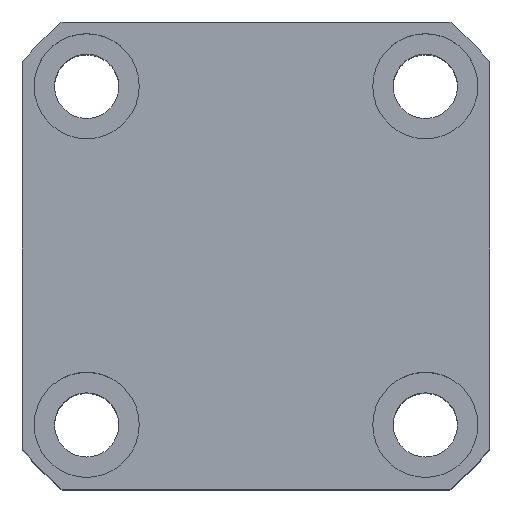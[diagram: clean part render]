
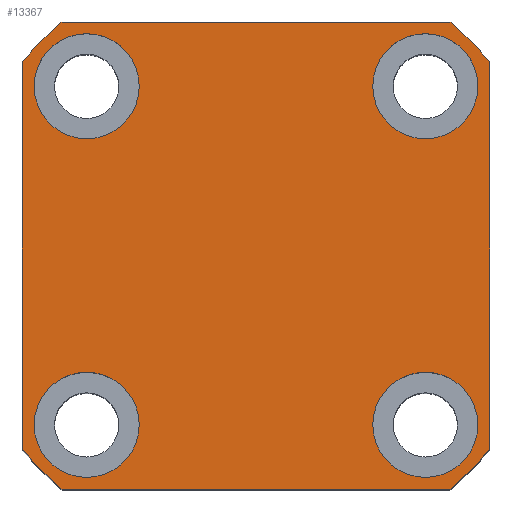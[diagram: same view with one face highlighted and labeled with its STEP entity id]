
A CAD part, top view. The second image highlights one B-rep face of the part: STEP entity #13367.
In plain terms, the highlighted planar face has unit normal (0, 0, 1).
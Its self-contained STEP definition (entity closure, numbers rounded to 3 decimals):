
#71 = DIRECTION ( 'NONE',  ( 0., -1., 0. ) ) ;
#82 = VERTEX_POINT ( 'NONE', #5258 ) ;
#85 = LINE ( 'NONE', #3131, #1879 ) ;
#164 = EDGE_CURVE ( 'NONE', #619, #12294, #13432, .T. ) ;
#619 = VERTEX_POINT ( 'NONE', #8048 ) ;
#705 = ORIENTED_EDGE ( 'NONE', *, *, #164, .F. ) ;
#806 = DIRECTION ( 'NONE',  ( 0., 0., 1. ) ) ;
#847 = EDGE_CURVE ( 'NONE', #3306, #82, #4656, .T. ) ;
#983 = CARTESIAN_POINT ( 'NONE',  ( -29., -29., 47.5 ) ) ;
#1250 = CARTESIAN_POINT ( 'NONE',  ( -33.226, -40., 47.5 ) ) ;
#1337 = DIRECTION ( 'NONE',  ( 0., 0., 1. ) ) ;
#1426 = ORIENTED_EDGE ( 'NONE', *, *, #12251, .F. ) ;
#1439 = DIRECTION ( 'NONE',  ( 1., 0., 0. ) ) ;
#1478 = DIRECTION ( 'NONE',  ( 1., 0., 0. ) ) ;
#1510 = PLANE ( 'NONE',  #7344 ) ;
#1553 = EDGE_CURVE ( 'NONE', #13475, #4168, #4142, .T. ) ;
#1674 = CARTESIAN_POINT ( 'NONE',  ( 20., 29., 47.5 ) ) ;
#1736 = CIRCLE ( 'NONE', #2472, 9. ) ;
#1759 = CARTESIAN_POINT ( 'NONE',  ( -38., -29., 47.5 ) ) ;
#1767 = CIRCLE ( 'NONE', #9258, 9. ) ;
#1831 = CIRCLE ( 'NONE', #13066, 9. ) ;
#1879 = VECTOR ( 'NONE', #6529, 1000. ) ;
#1982 = EDGE_CURVE ( 'NONE', #13043, #13475, #11450, .T. ) ;
#2331 = AXIS2_PLACEMENT_3D ( 'NONE', #5508, #12325, #7876 ) ;
#2379 = VERTEX_POINT ( 'NONE', #7871 ) ;
#2470 = DIRECTION ( 'NONE',  ( 1., 0., 0. ) ) ;
#2472 = AXIS2_PLACEMENT_3D ( 'NONE', #3933, #806, #14536 ) ;
#2625 = DIRECTION ( 'NONE',  ( 0., 0., 1. ) ) ;
#2687 = CARTESIAN_POINT ( 'NONE',  ( 40., 33.226, 47.5 ) ) ;
#2781 = AXIS2_PLACEMENT_3D ( 'NONE', #4861, #8525, #8574 ) ;
#2860 = VERTEX_POINT ( 'NONE', #1759 ) ;
#3072 = ORIENTED_EDGE ( 'NONE', *, *, #9329, .T. ) ;
#3131 = CARTESIAN_POINT ( 'NONE',  ( -33.226, 40., 47.5 ) ) ;
#3306 = VERTEX_POINT ( 'NONE', #4133 ) ;
#3349 = ORIENTED_EDGE ( 'NONE', *, *, #847, .T. ) ;
#3435 = CARTESIAN_POINT ( 'NONE',  ( -40., 33.226, 47.5 ) ) ;
#3668 = CARTESIAN_POINT ( 'NONE',  ( 29., 29., 47.5 ) ) ;
#3812 = EDGE_CURVE ( 'NONE', #82, #14661, #9135, .T. ) ;
#3830 = DIRECTION ( 'NONE',  ( 0., 0., 1. ) ) ;
#3858 = ORIENTED_EDGE ( 'NONE', *, *, #5809, .F. ) ;
#3933 = CARTESIAN_POINT ( 'NONE',  ( -29., -29., 47.5 ) ) ;
#4050 = ORIENTED_EDGE ( 'NONE', *, *, #3812, .T. ) ;
#4133 = CARTESIAN_POINT ( 'NONE',  ( -33.226, 40., 47.5 ) ) ;
#4142 = CIRCLE ( 'NONE', #8928, 52. ) ;
#4168 = VERTEX_POINT ( 'NONE', #14195 ) ;
#4656 = CIRCLE ( 'NONE', #7175, 52. ) ;
#4861 = CARTESIAN_POINT ( 'NONE',  ( 29., -29., 47.5 ) ) ;
#4874 = EDGE_CURVE ( 'NONE', #14152, #7256, #11789, .T. ) ;
#5104 = DIRECTION ( 'NONE',  ( 0., 0., 1. ) ) ;
#5258 = CARTESIAN_POINT ( 'NONE',  ( -40., 33.226, 47.5 ) ) ;
#5508 = CARTESIAN_POINT ( 'NONE',  ( -29., 29., 47.5 ) ) ;
#5556 = CARTESIAN_POINT ( 'NONE',  ( -33.226, -40., 47.5 ) ) ;
#5621 = EDGE_LOOP ( 'NONE', ( #3858, #1426 ) ) ;
#5689 = VECTOR ( 'NONE', #2470, 1000. ) ;
#5781 = CIRCLE ( 'NONE', #2781, 9. ) ;
#5809 = EDGE_CURVE ( 'NONE', #7780, #10175, #11452, .T. ) ;
#5850 = DIRECTION ( 'NONE',  ( 0., 0., 1. ) ) ;
#5867 = DIRECTION ( 'NONE',  ( 1., 0., 0. ) ) ;
#6202 = FACE_BOUND ( 'NONE', #7015, .T. ) ;
#6282 = DIRECTION ( 'NONE',  ( 1., 0., 0. ) ) ;
#6389 = ORIENTED_EDGE ( 'NONE', *, *, #14212, .F. ) ;
#6403 = CARTESIAN_POINT ( 'NONE',  ( 20., -29., 47.5 ) ) ;
#6529 = DIRECTION ( 'NONE',  ( -1., 0., 0. ) ) ;
#6570 = CARTESIAN_POINT ( 'NONE',  ( 33.226, -40., 47.5 ) ) ;
#6723 = EDGE_LOOP ( 'NONE', ( #3349, #4050, #14406, #11143, #13667, #9638, #12041, #3072 ) ) ;
#6747 = CIRCLE ( 'NONE', #8109, 52. ) ;
#6995 = CARTESIAN_POINT ( 'NONE',  ( -29., 29., 47.5 ) ) ;
#7015 = EDGE_LOOP ( 'NONE', ( #7792, #9081 ) ) ;
#7084 = FACE_BOUND ( 'NONE', #9323, .T. ) ;
#7127 = DIRECTION ( 'NONE',  ( 0., 0., 1. ) ) ;
#7175 = AXIS2_PLACEMENT_3D ( 'NONE', #14050, #3830, #8554 ) ;
#7256 = VERTEX_POINT ( 'NONE', #6570 ) ;
#7283 = DIRECTION ( 'NONE',  ( 0., 1., 0. ) ) ;
#7344 = AXIS2_PLACEMENT_3D ( 'NONE', #10543, #13964, #11697 ) ;
#7780 = VERTEX_POINT ( 'NONE', #13239 ) ;
#7792 = ORIENTED_EDGE ( 'NONE', *, *, #9086, .F. ) ;
#7871 = CARTESIAN_POINT ( 'NONE',  ( 38., -29., 47.5 ) ) ;
#7876 = DIRECTION ( 'NONE',  ( 1., 0., 0. ) ) ;
#8048 = CARTESIAN_POINT ( 'NONE',  ( -20., 29., 47.5 ) ) ;
#8072 = VERTEX_POINT ( 'NONE', #6403 ) ;
#8084 = CARTESIAN_POINT ( 'NONE',  ( 0., 0., 47.5 ) ) ;
#8109 = AXIS2_PLACEMENT_3D ( 'NONE', #9293, #7127, #5867 ) ;
#8525 = DIRECTION ( 'NONE',  ( 0., 0., 1. ) ) ;
#8554 = DIRECTION ( 'NONE',  ( 1., 0., 0. ) ) ;
#8574 = DIRECTION ( 'NONE',  ( 1., 0., 0. ) ) ;
#8612 = AXIS2_PLACEMENT_3D ( 'NONE', #6995, #5850, #9278 ) ;
#8682 = EDGE_CURVE ( 'NONE', #8072, #2379, #10798, .T. ) ;
#8928 = AXIS2_PLACEMENT_3D ( 'NONE', #8084, #1337, #1439 ) ;
#9081 = ORIENTED_EDGE ( 'NONE', *, *, #8682, .F. ) ;
#9086 = EDGE_CURVE ( 'NONE', #2379, #8072, #5781, .T. ) ;
#9135 = LINE ( 'NONE', #3435, #14268 ) ;
#9258 = AXIS2_PLACEMENT_3D ( 'NONE', #983, #10305, #13489 ) ;
#9278 = DIRECTION ( 'NONE',  ( 1., 0., 0. ) ) ;
#9293 = CARTESIAN_POINT ( 'NONE',  ( 0., 0., 47.5 ) ) ;
#9323 = EDGE_LOOP ( 'NONE', ( #705, #6389 ) ) ;
#9329 = EDGE_CURVE ( 'NONE', #4168, #3306, #85, .T. ) ;
#9383 = CARTESIAN_POINT ( 'NONE',  ( 29., 29., 47.5 ) ) ;
#9578 = CARTESIAN_POINT ( 'NONE',  ( 0., 0., 47.5 ) ) ;
#9638 = ORIENTED_EDGE ( 'NONE', *, *, #1982, .T. ) ;
#9897 = CARTESIAN_POINT ( 'NONE',  ( 40., 33.226, 47.5 ) ) ;
#10012 = CARTESIAN_POINT ( 'NONE',  ( -40., -33.226, 47.5 ) ) ;
#10137 = FACE_BOUND ( 'NONE', #12014, .T. ) ;
#10175 = VERTEX_POINT ( 'NONE', #1674 ) ;
#10305 = DIRECTION ( 'NONE',  ( 0., 0., 1. ) ) ;
#10543 = CARTESIAN_POINT ( 'NONE',  ( 0., 0., 47.5 ) ) ;
#10574 = CARTESIAN_POINT ( 'NONE',  ( 40., -33.226, 47.5 ) ) ;
#10798 = CIRCLE ( 'NONE', #11778, 9. ) ;
#10822 = CARTESIAN_POINT ( 'NONE',  ( 29., -29., 47.5 ) ) ;
#11143 = ORIENTED_EDGE ( 'NONE', *, *, #4874, .T. ) ;
#11314 = AXIS2_PLACEMENT_3D ( 'NONE', #3668, #13981, #12708 ) ;
#11450 = LINE ( 'NONE', #2687, #14115 ) ;
#11452 = CIRCLE ( 'NONE', #11314, 9. ) ;
#11471 = CIRCLE ( 'NONE', #12123, 52. ) ;
#11697 = DIRECTION ( 'NONE',  ( 1., 0., 0. ) ) ;
#11770 = CARTESIAN_POINT ( 'NONE',  ( -38., 29., 47.5 ) ) ;
#11778 = AXIS2_PLACEMENT_3D ( 'NONE', #10822, #5104, #6282 ) ;
#11789 = LINE ( 'NONE', #1250, #5689 ) ;
#12014 = EDGE_LOOP ( 'NONE', ( #14662, #14272 ) ) ;
#12041 = ORIENTED_EDGE ( 'NONE', *, *, #1553, .T. ) ;
#12105 = EDGE_CURVE ( 'NONE', #7256, #13043, #11471, .T. ) ;
#12123 = AXIS2_PLACEMENT_3D ( 'NONE', #9578, #14185, #13695 ) ;
#12251 = EDGE_CURVE ( 'NONE', #10175, #7780, #1831, .T. ) ;
#12294 = VERTEX_POINT ( 'NONE', #11770 ) ;
#12325 = DIRECTION ( 'NONE',  ( 0., 0., 1. ) ) ;
#12407 = EDGE_CURVE ( 'NONE', #14023, #2860, #1767, .T. ) ;
#12453 = FACE_OUTER_BOUND ( 'NONE', #6723, .T. ) ;
#12708 = DIRECTION ( 'NONE',  ( 1., 0., 0. ) ) ;
#12955 = EDGE_CURVE ( 'NONE', #14661, #14152, #6747, .T. ) ;
#13043 = VERTEX_POINT ( 'NONE', #10574 ) ;
#13066 = AXIS2_PLACEMENT_3D ( 'NONE', #9383, #2625, #1478 ) ;
#13239 = CARTESIAN_POINT ( 'NONE',  ( 38., 29., 47.5 ) ) ;
#13329 = CIRCLE ( 'NONE', #8612, 9. ) ;
#13367 = ADVANCED_FACE ( 'NONE', ( #6202, #10137, #7084, #14741, #12453 ), #1510, .T. ) ;
#13432 = CIRCLE ( 'NONE', #2331, 9. ) ;
#13475 = VERTEX_POINT ( 'NONE', #9897 ) ;
#13489 = DIRECTION ( 'NONE',  ( 1., 0., 0. ) ) ;
#13667 = ORIENTED_EDGE ( 'NONE', *, *, #12105, .T. ) ;
#13695 = DIRECTION ( 'NONE',  ( 1., 0., 0. ) ) ;
#13964 = DIRECTION ( 'NONE',  ( 0., 0., 1. ) ) ;
#13981 = DIRECTION ( 'NONE',  ( 0., 0., 1. ) ) ;
#13987 = EDGE_CURVE ( 'NONE', #2860, #14023, #1736, .T. ) ;
#14023 = VERTEX_POINT ( 'NONE', #14148 ) ;
#14050 = CARTESIAN_POINT ( 'NONE',  ( 0., 0., 47.5 ) ) ;
#14115 = VECTOR ( 'NONE', #7283, 1000. ) ;
#14148 = CARTESIAN_POINT ( 'NONE',  ( -20., -29., 47.5 ) ) ;
#14152 = VERTEX_POINT ( 'NONE', #5556 ) ;
#14185 = DIRECTION ( 'NONE',  ( 0., 0., 1. ) ) ;
#14195 = CARTESIAN_POINT ( 'NONE',  ( 33.226, 40., 47.5 ) ) ;
#14212 = EDGE_CURVE ( 'NONE', #12294, #619, #13329, .T. ) ;
#14268 = VECTOR ( 'NONE', #71, 1000. ) ;
#14272 = ORIENTED_EDGE ( 'NONE', *, *, #13987, .F. ) ;
#14406 = ORIENTED_EDGE ( 'NONE', *, *, #12955, .T. ) ;
#14536 = DIRECTION ( 'NONE',  ( 1., 0., 0. ) ) ;
#14661 = VERTEX_POINT ( 'NONE', #10012 ) ;
#14662 = ORIENTED_EDGE ( 'NONE', *, *, #12407, .F. ) ;
#14741 = FACE_BOUND ( 'NONE', #5621, .T. ) ;
